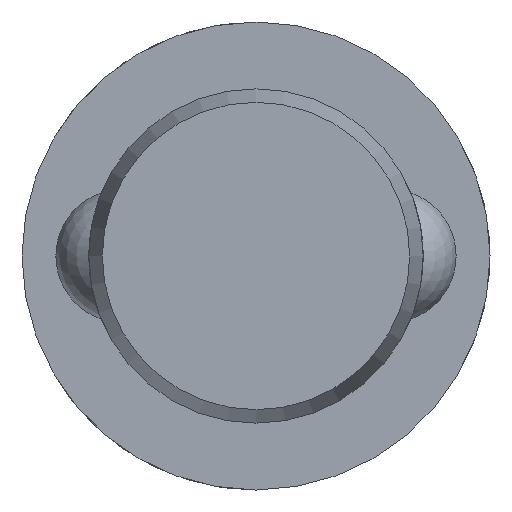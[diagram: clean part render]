
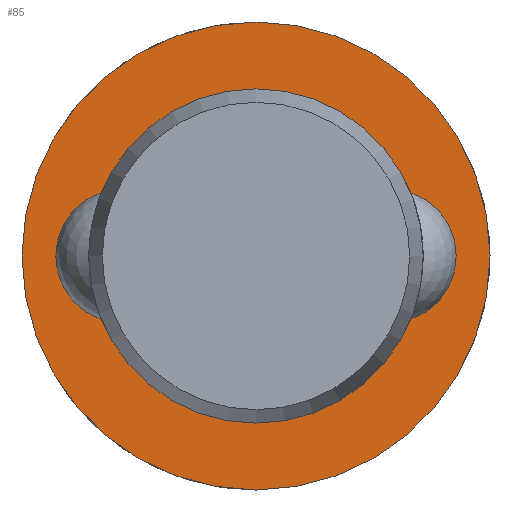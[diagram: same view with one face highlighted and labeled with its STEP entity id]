
A CAD part, left-side view. The second image highlights one B-rep face of the part: STEP entity #85.
In plain terms, the highlighted planar face has unit normal (-1, 0, 0).
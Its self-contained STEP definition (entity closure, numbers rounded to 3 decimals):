
#85 = ADVANCED_FACE( '', ( #130, #131 ), #132, .F. );
#130 = FACE_OUTER_BOUND( '', #200, .T. );
#131 = FACE_BOUND( '', #201, .T. );
#132 = PLANE( '', #202 );
#200 = EDGE_LOOP( '', ( #315 ) );
#201 = EDGE_LOOP( '', ( #316 ) );
#202 = AXIS2_PLACEMENT_3D( '', #317, #318, #319 );
#315 = ORIENTED_EDGE( '', *, *, #458, .F. );
#316 = ORIENTED_EDGE( '', *, *, #455, .T. );
#317 = CARTESIAN_POINT( '', ( 59.6, 5., 0. ) );
#318 = DIRECTION( '', ( 1., 0., 0. ) );
#319 = DIRECTION( '', ( 0., 0., -1. ) );
#455 = EDGE_CURVE( '', #528, #528, #529, .T. );
#458 = EDGE_CURVE( '', #534, #534, #535, .T. );
#528 = VERTEX_POINT( '', #732 );
#529 = CIRCLE( '', #733, 5. );
#534 = VERTEX_POINT( '', #844 );
#535 = CIRCLE( '', #845, 7. );
#732 = CARTESIAN_POINT( '', ( 59.6, 0., -5. ) );
#733 = AXIS2_PLACEMENT_3D( '', #922, #923, #924 );
#844 = CARTESIAN_POINT( '', ( 59.6, 0., -7. ) );
#845 = AXIS2_PLACEMENT_3D( '', #925, #926, #927 );
#922 = CARTESIAN_POINT( '', ( 59.6, 0., 0. ) );
#923 = DIRECTION( '', ( 1., 0., 0. ) );
#924 = DIRECTION( '', ( 0., 0., -1. ) );
#925 = CARTESIAN_POINT( '', ( 59.6, 0., 0. ) );
#926 = DIRECTION( '', ( 1., 0., 0. ) );
#927 = DIRECTION( '', ( 0., 0., -1. ) );
